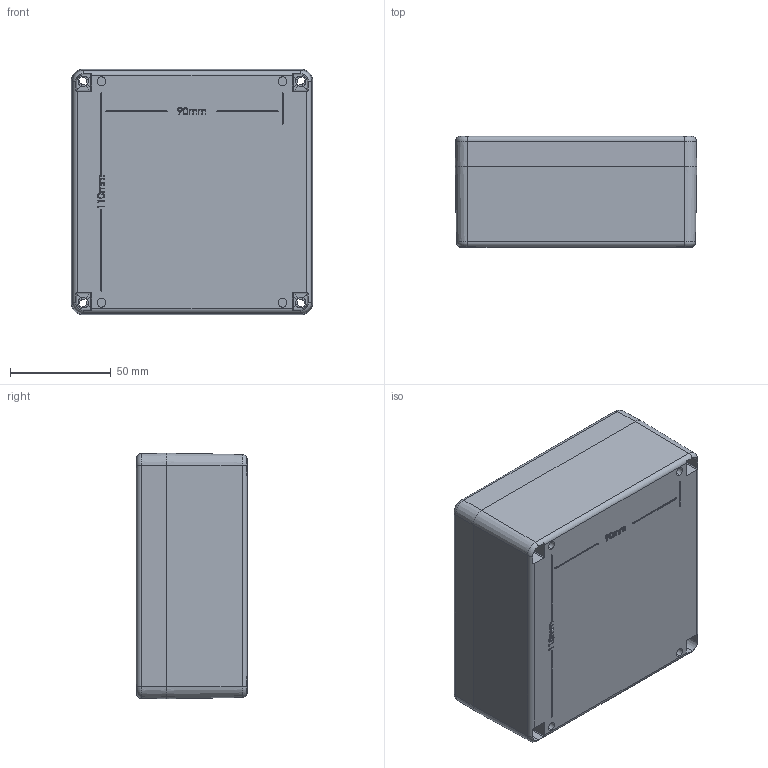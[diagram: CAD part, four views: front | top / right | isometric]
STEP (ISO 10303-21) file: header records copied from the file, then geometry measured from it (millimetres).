
FILE_DESCRIPTION (( 'STEP AP214' ), '1' );
FILE_NAME ('ZP 9 asm.STEP', '2014-10-27T11:35:15', ( '' ), ( '' ), 'SwSTEP 2.0', 'SolidWorks 2014', '' );
FILE_SCHEMA (( 'AUTOMOTIVE_DESIGN' ));
Length unit declared in the file: millimetre
Products named in the file (3): ZP 9 asm; ZP 9 Base; ZP 9 lid
Assembly tree (2 placements, depth 2):
  ZP 9 asm
    ZP 9 Base
    ZP 9 lid
Bounding box: 120 x 55.25 x 122 mm (x, y, z)
Volume: 152088.1 mm3; surface area: 125482.4 mm2
Topology: 2 solids, 2 shells, 779 faces, 2085 edges, 1344 vertices
Faces by surface type: plane 455, cone 176, cylinder 77, bspline 63, torus 8
Entity records: 28039 total; most frequent: CARTESIAN_POINT 8656, ORIENTED_EDGE 4130, DIRECTION 3817, EDGE_CURVE 2065, LINE 1375, VECTOR 1375, VERTEX_POINT 1344, AXIS2_PLACEMENT_3D 1221
